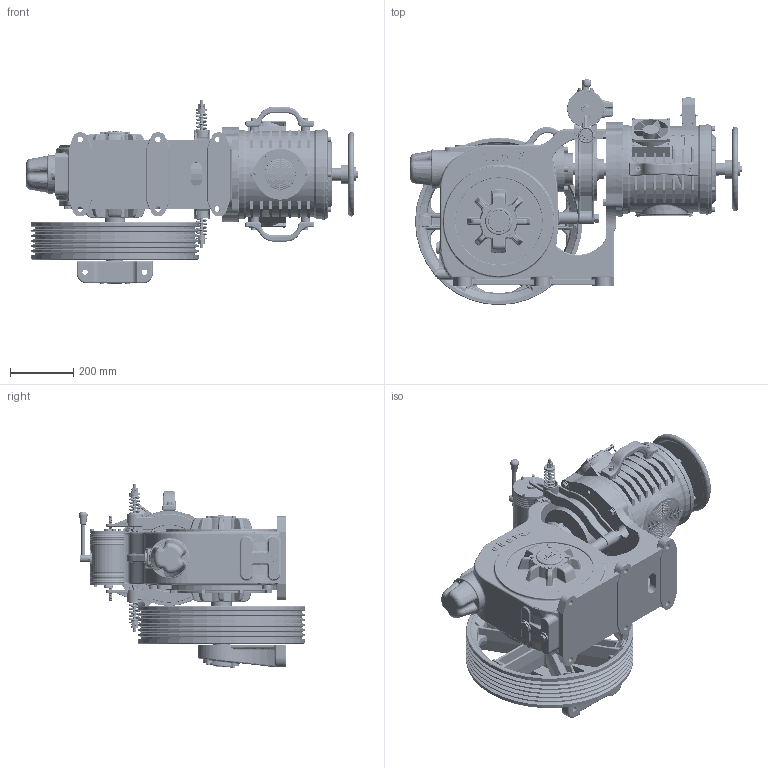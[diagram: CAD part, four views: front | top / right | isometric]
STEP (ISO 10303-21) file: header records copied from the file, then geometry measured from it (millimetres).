
FILE_DESCRIPTION (( 'STEP AP214' ), '1' );
FILE_NAME ('STP11320.STEP', '2025-06-30T05:37:55', ( '' ), ( '' ), 'SwSTEP 2.0', 'SolidWorks 2023', '' );
FILE_SCHEMA (( 'AUTOMOTIVE_DESIGN' ));
Length unit declared in the file: millimetre
Products named in the file (1): STP11320
Bounding box: 1050.82 x 715.63 x 581.29 mm (x, y, z)
Volume: 66791763.2 mm3; surface area: 5258046 mm2
Topology: 97 solids, 124 shells, 10112 faces, 25292 edges, 15454 vertices
Faces by surface type: cylinder 3385, plane 2728, bspline 2117, cone 955, torus 758, sphere 169
Entity records: 575109 total; most frequent: CARTESIAN_POINT 360685, ORIENTED_EDGE 50024, DIRECTION 38339, EDGE_CURVE 25012, VERTEX_POINT 15440, AXIS2_PLACEMENT_3D 14856, EDGE_LOOP 10872, ADVANCED_FACE 10112
